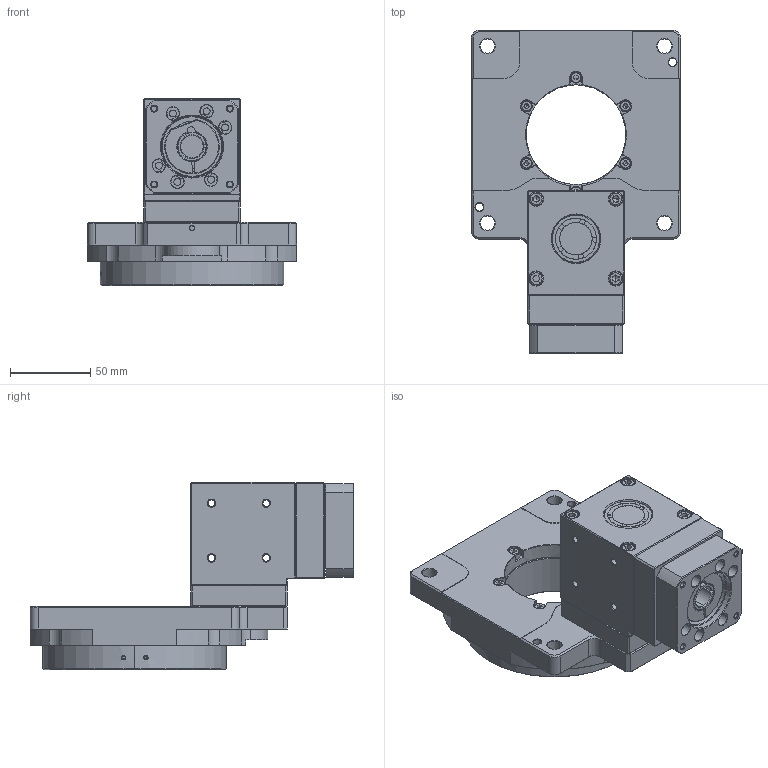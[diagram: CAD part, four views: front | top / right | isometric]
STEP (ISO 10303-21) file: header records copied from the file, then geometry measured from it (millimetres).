
FILE_DESCRIPTION (( 'STEP AP203' ), '1' );
FILE_NAME ('HRG130Z 3333.STEP', '2021-03-06T06:47:21', ( '' ), ( '' ), 'SwSTEP 2.0', 'SolidWorks 2012', '' );
FILE_SCHEMA (( 'CONFIG_CONTROL_DESIGN' ));
Length unit declared in the file: millimetre
Products named in the file (1): HRG130Z 3333
Bounding box: 130 x 201.3 x 116.5 mm (x, y, z)
Surface area: 117875.6 mm2 (no closed solid volume)
Topology: 0 solids, 32 shells, 691 faces, 1972 edges, 1270 vertices
Faces by surface type: plane 277, cone 194, cylinder 180, torus 36, bspline 4
Entity records: 22852 total; most frequent: CARTESIAN_POINT 4645, DIRECTION 4003, ORIENTED_EDGE 3417, EDGE_CURVE 1958, AXIS2_PLACEMENT_3D 1504, VERTEX_POINT 1270, VECTOR 995, LINE 995
